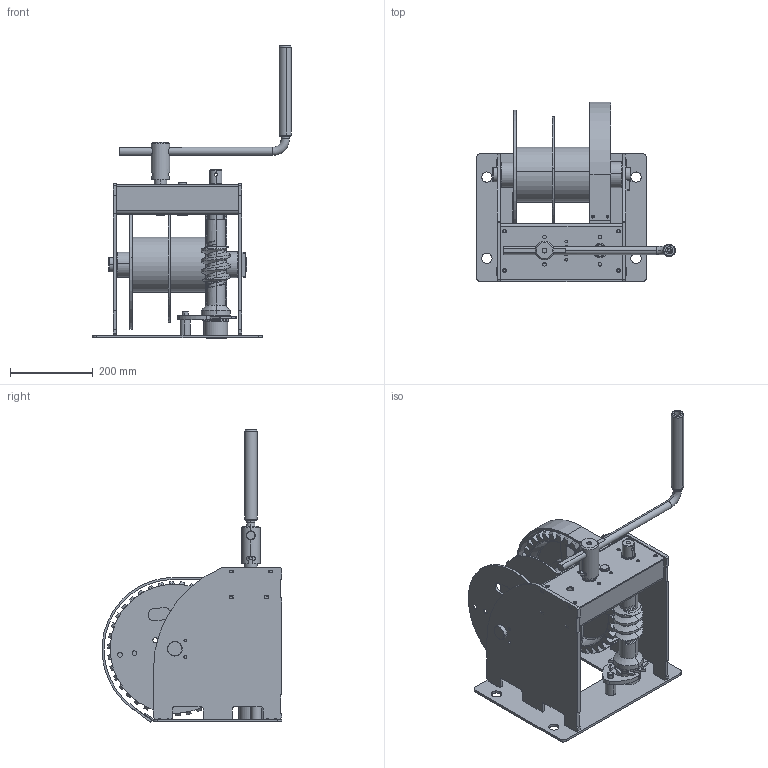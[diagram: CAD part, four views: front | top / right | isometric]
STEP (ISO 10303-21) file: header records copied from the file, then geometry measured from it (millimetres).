
FILE_DESCRIPTION (( 'STEP AP203' ), '1' );
FILE_NAME ('SL9011 WW2000 2D.STEP', '2015-09-16T09:02:11', ( '.' ), ( '.' ), 'SwSTEP 2.0', 'SolidWorks 2015', '' );
FILE_SCHEMA (( 'CONFIG_CONTROL_DESIGN' ));
Length unit declared in the file: millimetre
Products named in the file (43): SL1347 beschermkapplaat; SL9011 WW2000 2D; SL0210_Wormwiel; SL1276 Lager RS40_27-38-20; SL1334 remschijf; SL1275 Lagerrring AWX40_Met kraag; SL0196_Lagerring GL3520; SL1257 naaldlager AWX40; SL1339 borgplaat; SL1235_Palas_Met kraag; SL0192_Meenemer; SL1256 lagerschijf AS4060; SL1320 Flenslager GFL-30; SL1453 trommelas; SL1449 Sam huis; SL0174_tussenflens_2000; SL1444 aandrijfas; SL1454 wormas; SL0368_Slingerkop; SL1446 voorbrug; SL1450 achterplaat; SL0202_Sam trommel_2D ; SL1445 tussenas; SL0823_glijlager_3520; SL0369_Slingerarm; SL1447 Sam voorbrug_Zonder lagers; SL1451 zijplaat; spur gear_din_DIN - Spur gear 3M 34T 20PA 28FW ---S34A75H50L30.0R1; SL1319 Flenslager GFL-25; SL1233_palwiel_WW; SL0370_Handvat; SL1321 Flenslager GFL-20; SL1448 achterbrug; SL0569_Tandwiel m3z20; SL0208_Trommelbuis; SL1258 Lagerbus; SL0371_Sam slinger; SL0206_Tandwiel m3z15; SL1341 bevestigingsplaat; SL1455 beschermkap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
Assembly tree (50 placements, depth 3):
  SL9011 WW2000 2D
    SL1449 Sam huis
      SL1450 achterplaat
      SL1451 zijplaat  x2
      SL1448 achterbrug
      SL1341 bevestigingsplaat  x4
      SL1347 beschermkapplaat
      SL1275 Lagerrring AWX40_Met kraag
      SL1235_Palas_Met kraag
    SL1447 Sam voorbrug_Zonder lagers
      SL1446 voorbrug
      SL1347 beschermkapplaat
    SL1321 Flenslager GFL-20  x2
    SL0206_Tandwiel m3z15
    SL1234_pal_WWgroot
    SL1334 remschijf
    SL1339 borgplaat
    SL1453 trommelas
    SL0368_Slingerkop
    SL0371_Sam slinger
      SL0369_Slingerarm
      SL0370_Handvat
    SL1320 Flenslager GFL-30  x2
    SL1454 wormas
    SL0823_glijlager_3520
    SL1230 Sam palwiel
      SL1233_palwiel_WW
      SL1258 Lagerbus
    SL1276 Lager RS40_27-38-20
    SL1257 naaldlager AWX40
    SL1256 lagerschijf AS4060
    SL1444 aandrijfas
    SL1445 tussenas
    SL1319 Flenslager GFL-25
    SL0202_Sam trommel_2D 
      SL0208_Trommelbuis
      SL0176_Trommelflens
      SL0210_Wormwiel
      SL0196_Lagerring GL3520
      SL0192_Meenemer  x2
      SL0174_tussenflens_2000
    spur gear_din_DIN - Spur gear 3M 34T 20PA 28FW ---S34A75H50L30.0R1
    SL0569_Tandwiel m3z20
    SL1455 beschermkap
Bounding box: 480.09 x 433.84 x 706.99 mm (x, y, z)
Volume: 7585855.9 mm3; surface area: 2069036.8 mm2
Topology: 45 solids, 45 shells, 1733 faces, 4652 edges, 3055 vertices
Faces by surface type: cylinder 927, plane 529, cone 221, bspline 34, torus 22
Entity records: 69297 total; most frequent: CARTESIAN_POINT 25246, DIRECTION 8584, ORIENTED_EDGE 8150, EDGE_CURVE 4075, AXIS2_PLACEMENT_3D 3414, VERTEX_POINT 2673, CIRCLE 1870, VECTOR 1756
